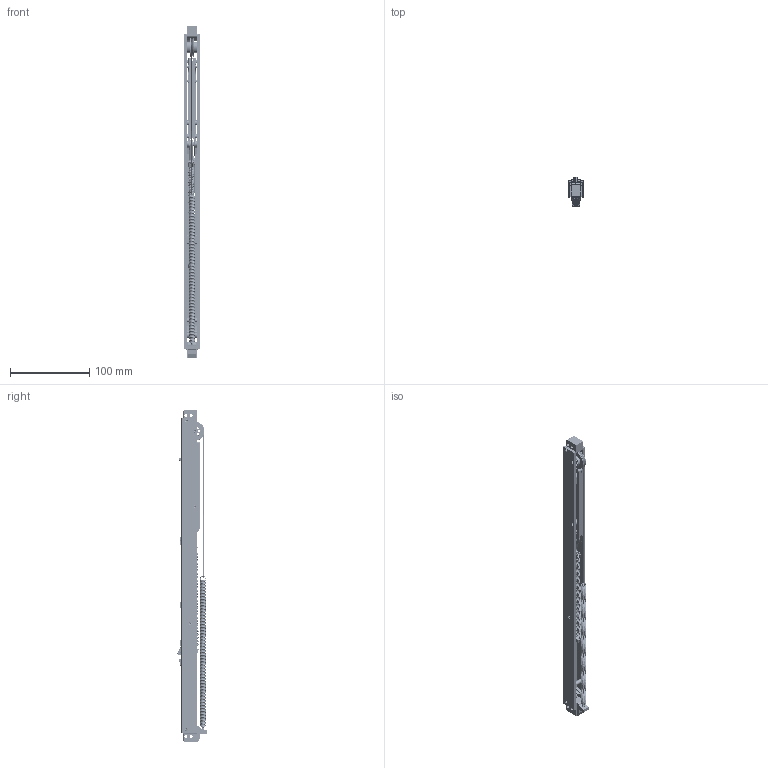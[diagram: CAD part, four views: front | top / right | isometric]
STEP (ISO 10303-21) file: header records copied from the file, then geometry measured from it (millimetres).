
FILE_DESCRIPTION((''),'2;1');
FILE_NAME('E070-08-120_SW0001','2023-05-05T15:23:29',('mlamm'),(''),'CREO PARAMETRIC BY PTC INC, 2022124','CREO PARAMETRIC BY PTC INC, 2022124','');
FILE_SCHEMA(('AUTOMOTIVE_DESIGN { 1 0 10303 214 1 1 1 1 }'));
Products named in the file (1): E070-08-120_SW0001
Bounding box: 20 x 36.68 x 418 mm (x, y, z)
Volume: 83096 mm3; surface area: 89261.8 mm2
Topology: 1 solids, 1 shells, 2968 faces, 7490 edges, 4517 vertices
Faces by surface type: cylinder 1164, plane 712, torus 592, bspline 323, cone 135, sphere 42
Entity records: 643041 total; most frequent: CARTESIAN_POINT 528092, ORIENTED_EDGE 14960, DIRECTION 14407, PRESENTATION_STYLE_ASSIGNMENT 10449, STYLED_ITEM 7481, CURVE_STYLE 7480, EDGE_CURVE 7480, AXIS2_PLACEMENT_3D 5721
